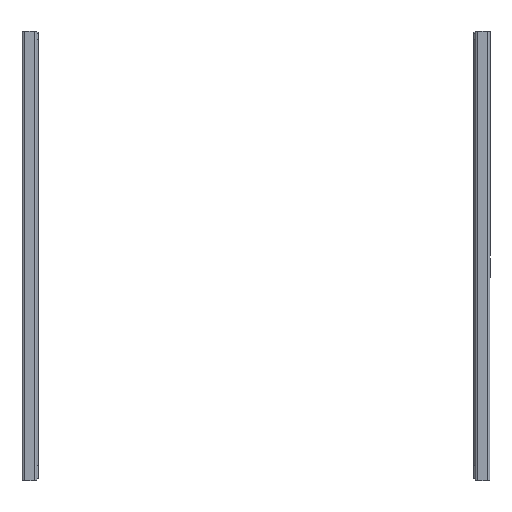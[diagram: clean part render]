
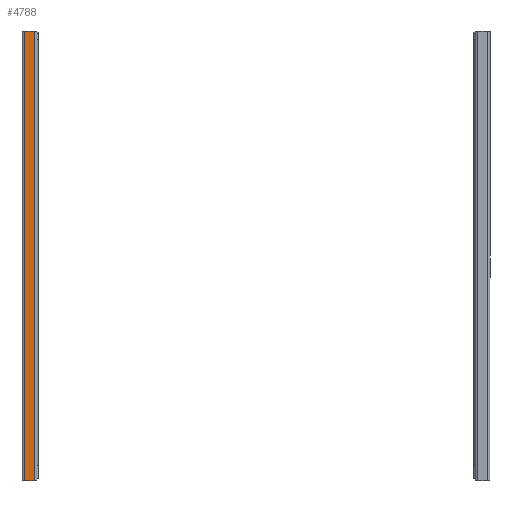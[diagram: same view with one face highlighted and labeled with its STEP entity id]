
A CAD part, front view. The second image highlights one B-rep face of the part: STEP entity #4788.
In plain terms, the highlighted planar face has unit normal (0, -1, 0).
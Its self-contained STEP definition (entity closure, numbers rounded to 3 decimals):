
#560=LINE('',#7395,#987);
#682=LINE('',#7721,#1109);
#683=LINE('',#7724,#1110);
#684=LINE('',#7725,#1111);
#987=VECTOR('',#5930,10.);
#1109=VECTOR('',#6300,10.);
#1110=VECTOR('',#6303,10.);
#1111=VECTOR('',#6304,10.);
#1358=PLANE('',#5317);
#1531=FACE_OUTER_BOUND('',#1796,.T.);
#1796=EDGE_LOOP('',(#4032,#4033,#4034,#4035));
#2351=VERTEX_POINT('',#7392);
#2352=VERTEX_POINT('',#7394);
#2432=VERTEX_POINT('',#7719);
#2433=VERTEX_POINT('',#7723);
#2839=EDGE_CURVE('',#2351,#2352,#560,.T.);
#3003=EDGE_CURVE('',#2432,#2351,#682,.T.);
#3004=EDGE_CURVE('',#2432,#2433,#683,.T.);
#3005=EDGE_CURVE('',#2352,#2433,#684,.T.);
#4032=ORIENTED_EDGE('',*,*,#3003,.F.);
#4033=ORIENTED_EDGE('',*,*,#3004,.T.);
#4034=ORIENTED_EDGE('',*,*,#3005,.F.);
#4035=ORIENTED_EDGE('',*,*,#2839,.F.);
#4788=ADVANCED_FACE('',(#1531),#1358,.T.);
#5317=AXIS2_PLACEMENT_3D('',#7722,#6301,#6302);
#5930=DIRECTION('',(-1.,0.,0.));
#6300=DIRECTION('',(0.,0.,-1.));
#6301=DIRECTION('center_axis',(0.,-1.,0.));
#6302=DIRECTION('ref_axis',(-1.,0.,0.));
#6303=DIRECTION('',(-1.,0.,0.));
#6304=DIRECTION('',(0.,0.,1.));
#7392=CARTESIAN_POINT('',(9.6,-22.25,-350.));
#7394=CARTESIAN_POINT('',(2.,-22.25,-350.));
#7395=CARTESIAN_POINT('',(11.6,-22.25,-350.));
#7719=CARTESIAN_POINT('',(9.6,-22.25,0.));
#7721=CARTESIAN_POINT('',(9.6,-22.25,0.));
#7722=CARTESIAN_POINT('Origin',(11.6,-22.25,0.));
#7723=CARTESIAN_POINT('',(2.,-22.25,0.));
#7724=CARTESIAN_POINT('',(11.6,-22.25,0.));
#7725=CARTESIAN_POINT('',(2.,-22.25,0.));
